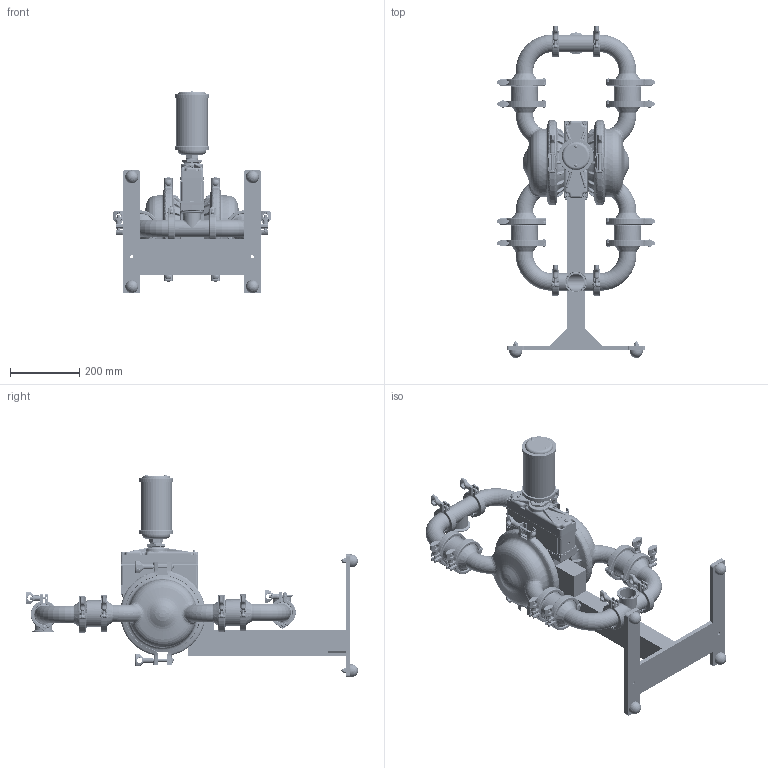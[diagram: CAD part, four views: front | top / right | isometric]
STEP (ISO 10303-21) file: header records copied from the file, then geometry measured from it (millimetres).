
FILE_DESCRIPTION((''),'2;1');
FILE_NAME('PS8_SS_SANIFLO_HS_BAL_SW0001','2015-04-08T',('nathan.hale'),(''),'PRO/ENGINEER BY PARAMETRIC TECHNOLOGY CORPORATION, 2013320','PRO/ENGINEER BY PARAMETRIC TECHNOLOGY CORPORATION, 2013320','');
FILE_SCHEMA(('CONFIG_CONTROL_DESIGN'));
Products named in the file (1): PS8_SS_SANIFLO_HS_BAL_SW0001
Bounding box: 460.1 x 960.55 x 585.8 mm (x, y, z)
Volume: 9124223.1 mm3; surface area: 2382006 mm2
Topology: 23 solids, 30 shells, 16221 faces, 41550 edges, 25745 vertices
Faces by surface type: plane 7930, cylinder 2621, bspline 2323, torus 1747, cone 972, sphere 473, extrusion 155
Entity records: 949268 total; most frequent: CARTESIAN_POINT 572276, ORIENTED_EDGE 82762, DIRECTION 72482, EDGE_CURVE 41381, VERTEX_POINT 25745, VECTOR 24342, LINE 24187, AXIS2_PLACEMENT_3D 24070
